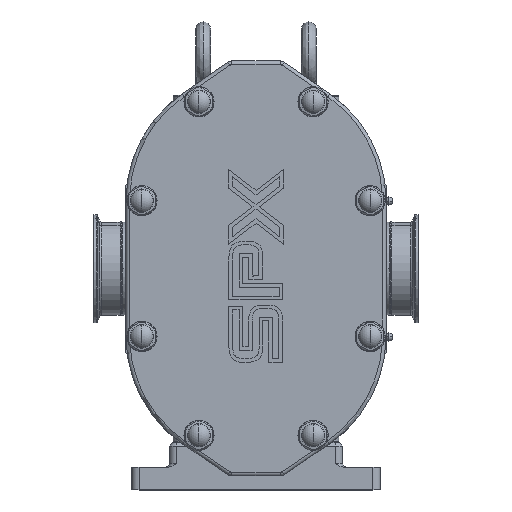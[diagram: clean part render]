
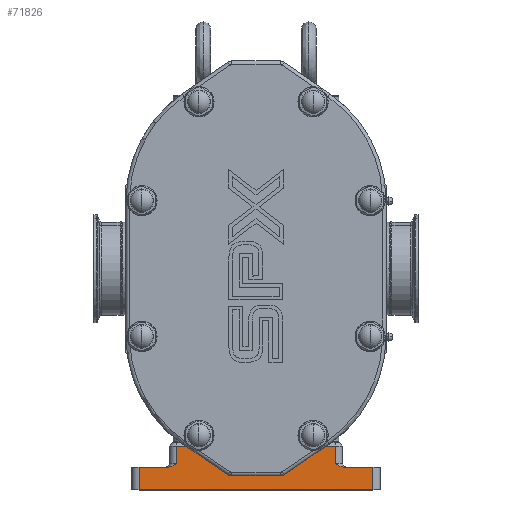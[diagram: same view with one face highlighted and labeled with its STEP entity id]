
A CAD part, top view. The second image highlights one B-rep face of the part: STEP entity #71826.
In plain terms, the highlighted planar face has unit normal (0, 0, 1).
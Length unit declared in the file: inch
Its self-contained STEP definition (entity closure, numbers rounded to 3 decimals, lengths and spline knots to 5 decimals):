
#116 = CARTESIAN_POINT ( 'NONE',  ( -2.76503, -6.52697, -2.93 ) ) ;
#1488 = CARTESIAN_POINT ( 'NONE',  ( 2.88017, -6.5625, -2.93 ) ) ;
#1759 = CARTESIAN_POINT ( 'NONE',  ( 2.81703, -6.54688, -2.93 ) ) ;
#3553 = LINE ( 'NONE', #4465, #35457 ) ;
#4465 = CARTESIAN_POINT ( 'NONE',  ( -3.873, -6.5625, -2.93 ) ) ;
#6220 = EDGE_CURVE ( 'NONE', #23517, #62478, #73351, .T. ) ;
#6512 = CARTESIAN_POINT ( 'NONE',  ( -2.80068, -6.54242, -2.93 ) ) ;
#6848 = VECTOR ( 'NONE', #36071, 39.37008 ) ;
#6871 = VERTEX_POINT ( 'NONE', #55249 ) ;
#7086 = EDGE_CURVE ( 'NONE', #6871, #34952, #50011, .T. ) ;
#8169 = CARTESIAN_POINT ( 'NONE',  ( 2.78072, -6.53247, -2.93 ) ) ;
#8293 = DIRECTION ( 'NONE',  ( 0., 0., -1. ) ) ;
#10683 = VECTOR ( 'NONE', #32377, 39.37008 ) ;
#12919 = CARTESIAN_POINT ( 'NONE',  ( -2.85061, -6.55802, -2.93 ) ) ;
#14586 = CARTESIAN_POINT ( 'NONE',  ( 2.71171, -6.49745, -2.93 ) ) ;
#14931 = LINE ( 'NONE', #55646, #46863 ) ;
#14985 = PLANE ( 'NONE',  #60577 ) ;
#16774 = ORIENTED_EDGE ( 'NONE', *, *, #73714, .F. ) ;
#17284 = DIRECTION ( 'NONE',  ( 1., 0., 0. ) ) ;
#17342 = ORIENTED_EDGE ( 'NONE', *, *, #65205, .F. ) ;
#17391 = DIRECTION ( 'NONE',  ( 0., -1., 0. ) ) ;
#18504 = CARTESIAN_POINT ( 'NONE',  ( 3.877, -6.5625, -2.93 ) ) ;
#18520 = ORIENTED_EDGE ( 'NONE', *, *, #61212, .T. ) ;
#19053 = CARTESIAN_POINT ( 'NONE',  ( -2.623, -6.4375, -2.93 ) ) ;
#19310 = CARTESIAN_POINT ( 'NONE',  ( -2.90251, -6.5625, -2.93 ) ) ;
#20799 = CARTESIAN_POINT ( 'NONE',  ( -2.623, -5.87, -2.93 ) ) ;
#20962 = CARTESIAN_POINT ( 'NONE',  ( 2.627, -6.4375, -2.93 ) ) ;
#21182 = CARTESIAN_POINT ( 'NONE',  ( -3.873, -6.5625, -2.93 ) ) ;
#21371 = CARTESIAN_POINT ( 'NONE',  ( -3.873, -6.5625, -2.93 ) ) ;
#23517 = VERTEX_POINT ( 'NONE', #68936 ) ;
#24978 = EDGE_LOOP ( 'NONE', ( #17342, #56185, #30709, #18520, #16774, #64455, #49294, #55951, #65569, #74309 ) ) ;
#25775 = LINE ( 'NONE', #67867, #6848 ) ;
#26695 = EDGE_CURVE ( 'NONE', #57347, #74846, #65114, .T. ) ;
#27781 = DIRECTION ( 'NONE',  ( -1., 0., 0. ) ) ;
#29586 = CARTESIAN_POINT ( 'NONE',  ( -2.623, -6.4375, -2.93 ) ) ;
#29860 = DIRECTION ( 'NONE',  ( 0., -1., 0. ) ) ;
#30709 = ORIENTED_EDGE ( 'NONE', *, *, #26695, .T. ) ;
#32377 = DIRECTION ( 'NONE',  ( 0., -1., 0. ) ) ;
#34275 = DIRECTION ( 'NONE',  ( -1., 0., 0. ) ) ;
#34952 = VERTEX_POINT ( 'NONE', #50799 ) ;
#35022 = EDGE_CURVE ( 'NONE', #71465, #6871, #78536, .T. ) ;
#35457 = VECTOR ( 'NONE', #17284, 39.37008 ) ;
#36071 = DIRECTION ( 'NONE',  ( 0., -1., 0. ) ) ;
#38284 = CARTESIAN_POINT ( 'NONE',  ( -2.70771, -6.49745, -2.93 ) ) ;
#39929 = CARTESIAN_POINT ( 'NONE',  ( 2.85461, -6.55802, -2.93 ) ) ;
#42668 = CARTESIAN_POINT ( 'NONE',  ( -2.623, -5.75, -2.93 ) ) ;
#44703 = CARTESIAN_POINT ( 'NONE',  ( -2.77672, -6.53247, -2.93 ) ) ;
#46369 = CARTESIAN_POINT ( 'NONE',  ( 2.80468, -6.54242, -2.93 ) ) ;
#46432 = CARTESIAN_POINT ( 'NONE',  ( -3.873, -6.5625, -2.93 ) ) ;
#46817 = VERTEX_POINT ( 'NONE', #66684 ) ;
#46863 = VECTOR ( 'NONE', #17391, 39.37008 ) ;
#49294 = ORIENTED_EDGE ( 'NONE', *, *, #7086, .T. ) ;
#49704 = FACE_OUTER_BOUND ( 'NONE', #24978, .T. ) ;
#50011 = LINE ( 'NONE', #76924, #64990 ) ;
#50799 = CARTESIAN_POINT ( 'NONE',  ( 3.877, -7.3125, -2.93 ) ) ;
#51129 = CARTESIAN_POINT ( 'NONE',  ( -2.81303, -6.54688, -2.93 ) ) ;
#51377 = B_SPLINE_CURVE_WITH_KNOTS ( 'NONE', 3,
 ( #19053, #57292, #38284, #116, #44703, #6512, #51129, #12919, #57585, #19310 ),
 .UNSPECIFIED., .F., .F.,
 ( 4, 2, 2, 2, 4 ),
 ( -0.00002, 0.00394, 0.00492, 0.00591, 0.00789 ),
 .UNSPECIFIED. ) ;
#51638 = CARTESIAN_POINT ( 'NONE',  ( -3.873, -6.5625, -2.93 ) ) ;
#52796 = CARTESIAN_POINT ( 'NONE',  ( 2.76903, -6.52697, -2.93 ) ) ;
#54375 = VECTOR ( 'NONE', #65932, 39.37008 ) ;
#55249 = CARTESIAN_POINT ( 'NONE',  ( -3.873, -7.3125, -2.93 ) ) ;
#55646 = CARTESIAN_POINT ( 'NONE',  ( 3.877, -6.5625, -2.93 ) ) ;
#55951 = ORIENTED_EDGE ( 'NONE', *, *, #78710, .F. ) ;
#56185 = ORIENTED_EDGE ( 'NONE', *, *, #79412, .T. ) ;
#57292 = CARTESIAN_POINT ( 'NONE',  ( -2.66534, -6.46744, -2.93 ) ) ;
#57347 = VERTEX_POINT ( 'NONE', #20799 ) ;
#57447 = DIRECTION ( 'NONE',  ( 1., 0., 0. ) ) ;
#57585 = CARTESIAN_POINT ( 'NONE',  ( -2.87617, -6.5625, -2.93 ) ) ;
#58964 = CARTESIAN_POINT ( 'NONE',  ( 2.90651, -6.5625, -2.93 ) ) ;
#59227 = CARTESIAN_POINT ( 'NONE',  ( 2.66938, -6.46747, -2.93 ) ) ;
#60014 = CARTESIAN_POINT ( 'NONE',  ( 2.627, -5.87, -2.93 ) ) ;
#60324 = LINE ( 'NONE', #72545, #79249 ) ;
#60577 = AXIS2_PLACEMENT_3D ( 'NONE', #21371, #8293, #27781 ) ;
#60711 = VERTEX_POINT ( 'NONE', #62972 ) ;
#61212 = EDGE_CURVE ( 'NONE', #74846, #46817, #51377, .T. ) ;
#62478 = VERTEX_POINT ( 'NONE', #18504 ) ;
#62972 = CARTESIAN_POINT ( 'NONE',  ( 2.627, -6.4375, -2.93 ) ) ;
#64455 = ORIENTED_EDGE ( 'NONE', *, *, #35022, .T. ) ;
#64990 = VECTOR ( 'NONE', #57447, 39.37008 ) ;
#65114 = LINE ( 'NONE', #42668, #80052 ) ;
#65205 = EDGE_CURVE ( 'NONE', #65599, #60711, #25775, .T. ) ;
#65569 = ORIENTED_EDGE ( 'NONE', *, *, #6220, .F. ) ;
#65599 = VERTEX_POINT ( 'NONE', #60014 ) ;
#65932 = DIRECTION ( 'NONE',  ( 1., 0., 0. ) ) ;
#66684 = CARTESIAN_POINT ( 'NONE',  ( -2.90251, -6.5625, -2.93 ) ) ;
#67867 = CARTESIAN_POINT ( 'NONE',  ( 2.627, -5.75, -2.93 ) ) ;
#68936 = CARTESIAN_POINT ( 'NONE',  ( 2.90651, -6.5625, -2.93 ) ) ;
#71465 = VERTEX_POINT ( 'NONE', #21182 ) ;
#71826 = ADVANCED_FACE ( 'NONE', ( #49704 ), #14985, .F. ) ;
#72545 = CARTESIAN_POINT ( 'NONE',  ( -2.623, -5.87, -2.93 ) ) ;
#73351 = LINE ( 'NONE', #46432, #54375 ) ;
#73714 = EDGE_CURVE ( 'NONE', #71465, #46817, #3553, .T. ) ;
#74309 = ORIENTED_EDGE ( 'NONE', *, *, #74660, .T. ) ;
#74660 = EDGE_CURVE ( 'NONE', #23517, #60711, #81387, .T. ) ;
#74846 = VERTEX_POINT ( 'NONE', #29586 ) ;
#76924 = CARTESIAN_POINT ( 'NONE',  ( -3.873, -7.3125, -2.93 ) ) ;
#78536 = LINE ( 'NONE', #51638, #10683 ) ;
#78710 = EDGE_CURVE ( 'NONE', #62478, #34952, #14931, .T. ) ;
#79249 = VECTOR ( 'NONE', #34275, 39.37008 ) ;
#79412 = EDGE_CURVE ( 'NONE', #65599, #57347, #60324, .T. ) ;
#80052 = VECTOR ( 'NONE', #29860, 39.37008 ) ;
#81387 = B_SPLINE_CURVE_WITH_KNOTS ( 'NONE', 3,
 ( #58964, #1488, #39929, #1759, #46369, #8169, #52796, #14586, #59227, #20962 ),
 .UNSPECIFIED., .F., .F.,
 ( 4, 2, 2, 2, 4 ),
 ( 0., 0.00198, 0.00297, 0.00396, 0.00791 ),
 .UNSPECIFIED. ) ;
